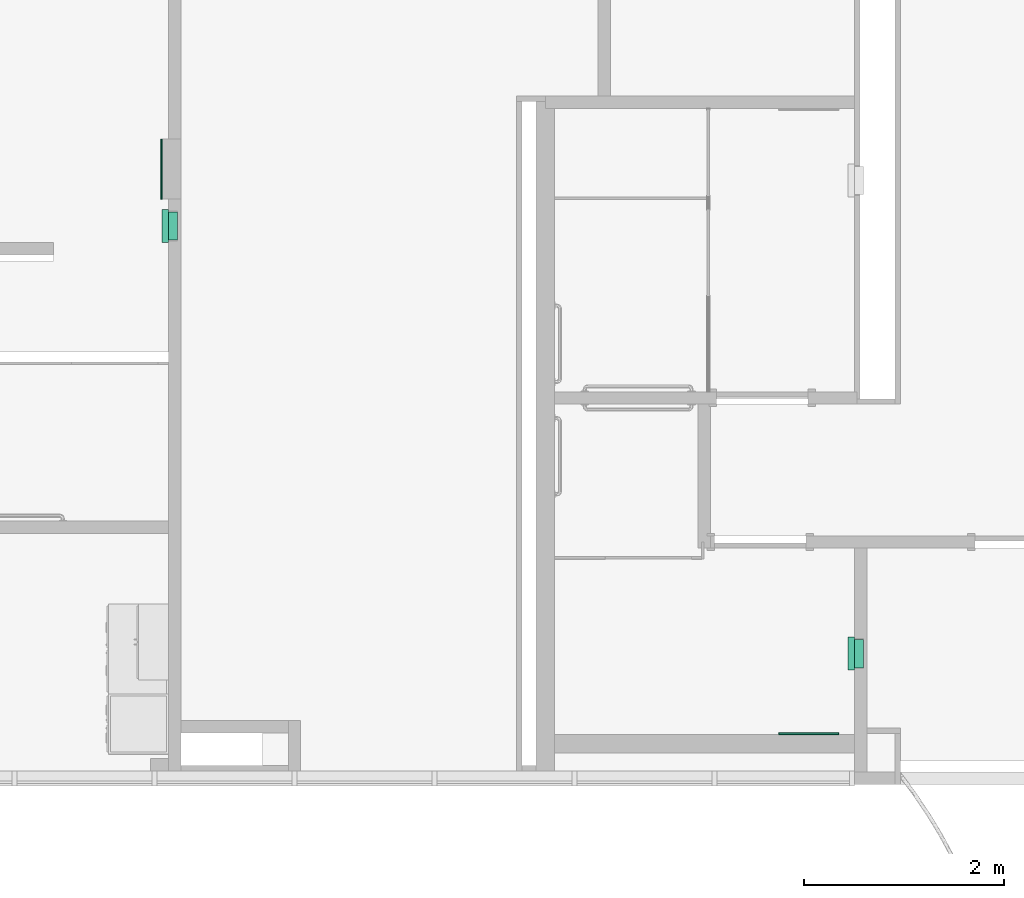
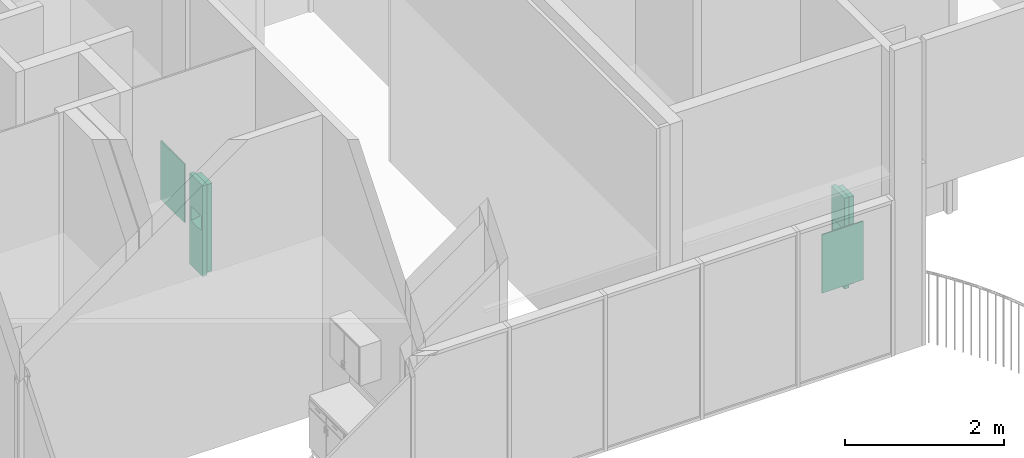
# One storey, part 34 of 47: 4 flow terminals.
"""IFC2X3 building model written with IfcOpenShell, lengths in metres."""

from ifc_helpers import new_model, entity, si_unit, converted_unit, frame, origin, origin_2d_with_axis, place, context, project, spatial, rectangle, extrude, face_set, surface_model, source, transform, mapped, type_object, type_shapes, element, save


model = new_model("IFC2X3")

# Units and contexts
model_context = context("Model", 3, precision=1e-09, world=origin())
plan_context = context("Plan", 3, precision=1e-09, world=origin())
ifc_project = project(units=[si_unit("LENGTHUNIT", "METRE"), si_unit("AREAUNIT", "SQUARE_METRE"), si_unit("VOLUMEUNIT", "CUBIC_METRE"), converted_unit("PLANEANGLEUNIT", "DEGREE", entity("IfcRatioMeasure", 0.01745329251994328), si_unit("PLANEANGLEUNIT", "RADIAN"), dimensions=[0, 0, 0, 0, 0, 0, 0]), si_unit("TIMEUNIT", "SECOND")], contexts=[model_context, plan_context])

# Site, building, storey, space
site_placement = place(None, origin())
site = spatial("IfcSite", under=ifc_project, at=site_placement, Name="Default", CompositionType="ELEMENT")
building_placement = place(site_placement, origin())
building = spatial("IfcBuilding", under=site, at=building_placement, CompositionType="ELEMENT")
storey_placement = place(building_placement, frame((0.0, 0.0, 4.570000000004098)))
storey = spatial("IfcBuildingStorey", under=building, at=storey_placement, Name="Second Floor", CompositionType="ELEMENT", Elevation=4.570000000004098)
space_1_placement = place(storey_placement, origin())
space_1 = spatial("IfcSpace", under=storey, at=space_1_placement, Name="2C23", CompositionType="ELEMENT", InteriorOrExteriorSpace="INTERNAL")

# Flow terminal
sanitary_terminal_type_1 = type_object("IfcSanitaryTerminalType", Name="Mirror 600mm x 900mm", PredefinedType="NOTDEFINED")
shared_shape_1 = source(origin(), model_context, "Body", "SweptSolid", [
    extrude(rectangle(XDim=0.01905, YDim=0.5999999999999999, at=origin_2d_with_axis()), frame((0.02447030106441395, 0.101525, 1.0), z_axis=(0.0, 0.0, 1.0), x_axis=(0.0, -1.0, 0.0)), (0.0, 0.0, 1.0), 0.8999999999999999),
])
type_shapes(sanitary_terminal_type_1, [shared_shape_1])
flow_terminal_1_placement = place(space_1_placement, frame((-20.77447030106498, 35.116999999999, -0.08499999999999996)))
element("IfcFlowTerminal", 1, at=flow_terminal_1_placement, inside=space_1, type_object=sanitary_terminal_type_1, Name="M_Mirror:Mirror 600mm x 900mm:Mirror 600mm x 900mm", ObjectType="Mirror 600mm x 900mm", context=model_context, shape_type="MappedRepresentation", body=[
    mapped(shared_shape_1, transform((0.0, 0.0, 0.0), scale=1.0)),
])

# Space
space_2_placement = place(storey_placement, origin())
space_2 = spatial("IfcSpace", under=storey, at=space_2_placement, Name="2C07", CompositionType="ELEMENT", InteriorOrExteriorSpace="INTERNAL")

# Flow terminals
flow_terminal_2_placement = place(space_2_placement, frame((-27.11800000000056, 40.83996840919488, -0.08499999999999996), z_axis=(0.0, 0.0, 1.0), x_axis=(0.0, 1.0, 0.0)))
element("IfcFlowTerminal", 2, at=flow_terminal_2_placement, inside=space_2, type_object=sanitary_terminal_type_1, Name="M_Mirror:Mirror 600mm x 900mm:Mirror 600mm x 900mm", ObjectType="Mirror 600mm x 900mm", context=model_context, shape_type="MappedRepresentation", body=[
    mapped(shared_shape_1, transform((0.0, 0.0, 0.0), scale=1.0)),
])
sanitary_terminal_type_2 = type_object("IfcSanitaryTerminalType", Name="Semi-Recessed", PredefinedType="NOTDEFINED")
shared_shape_2 = source(origin(), model_context, "Body", "SurfaceModel", [
    surface_model("IfcFaceBasedSurfaceModel", [(0.3047999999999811, 1.371600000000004, 0.006350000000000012), (0.02539999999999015, 1.371600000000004, 0.006350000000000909), (0.02539999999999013, 0.02540000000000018, 0.006350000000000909), (0.3047999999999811, 0.02540000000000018, 0.006350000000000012), (0.3047999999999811, 1.371600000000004, 0.0), (0.02539999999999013, 1.371600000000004, 0.0), (0.02539999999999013, 0.02540000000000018, 0.0), (0.3047999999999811, 0.02540000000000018, 0.0), (0.3047999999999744, 0.8683625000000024, 0.0314087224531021), (0.304799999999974, 0.8683625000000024, 0.0), (0.304799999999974, 1.371600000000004, 0.0), (0.3047999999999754, 1.371600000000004, 0.1396999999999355), (0.3047999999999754, 0.9274310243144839, 0.139699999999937), (0.3047999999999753, 0.9028355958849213, 0.1191121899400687), (0.304799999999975, 0.8840898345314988, 0.09308548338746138), (0.3047999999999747, 0.8723562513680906, 0.06323391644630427), (0.02539999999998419, 0.8683625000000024, 0.03140872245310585), (0.02539999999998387, 0.8683625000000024, 0.0), (0.02539999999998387, 1.371600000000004, 0.0), (0.02539999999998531, 1.371600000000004, 0.1396999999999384), (0.02539999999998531, 0.9274310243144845, 0.1396999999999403), (0.02539999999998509, 0.9028355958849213, 0.1191121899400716), (0.02539999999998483, 0.8840898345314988, 0.09308548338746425), (0.02539999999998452, 0.8723562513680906, 0.06323391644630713), (0.1650999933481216, 0.8971245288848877, 0.1125374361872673), (0.244423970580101, 0.8850007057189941, 0.0947267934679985), (0.3048000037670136, 0.8934627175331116, 0.1060988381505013), (0.225727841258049, 0.8897196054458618, 0.1024402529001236), (0.1240624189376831, 0.8936511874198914, 0.1080563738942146), (0.1443802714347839, 0.89626145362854, 0.1114614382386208), (0.02539999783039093, 0.8934627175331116, 0.1060988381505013), (0.2975995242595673, 0.8728225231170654, 0.06500939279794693), (0.2961554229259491, 0.8724397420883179, 0.06352298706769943), (0.08576729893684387, 0.8849983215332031, 0.09472260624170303), (0.05923719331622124, 0.8781034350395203, 0.0805450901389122), (0.06810294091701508, 0.8800443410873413, 0.08500713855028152), (0.02539999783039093, 0.8811564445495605, 0.08562259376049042), (0.03954862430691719, 0.8766331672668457, 0.07681932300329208), (0.04958875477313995, 0.8769928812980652, 0.07776296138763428), (0.02539999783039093, 0.8782230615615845, 0.07815969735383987), (0.03264534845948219, 0.875198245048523, 0.07281118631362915), (0.02539999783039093, 0.8767563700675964, 0.0744282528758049), (0.02539999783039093, 0.87602299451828, 0.07256253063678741), (0.2946777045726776, 0.8762261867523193, 0.07572414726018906), (0.3048000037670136, 0.8767563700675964, 0.0744282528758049), (0.3048000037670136, 0.8774896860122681, 0.07629397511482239), (0.2906513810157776, 0.8717893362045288, 0.0609215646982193), (0.3048000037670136, 0.871357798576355, 0.05527761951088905), (0.3048000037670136, 0.8718570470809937, 0.05925576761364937), (0.02539999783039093, 0.874556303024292, 0.06883108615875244), (0.03170676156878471, 0.8735430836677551, 0.0675705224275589), (0.03171554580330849, 0.8739543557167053, 0.06892137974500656), (0.104461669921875, 0.889717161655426, 0.1024366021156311), (0.02539999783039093, 0.8752896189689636, 0.07069680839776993), (0.03172433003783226, 0.8743656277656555, 0.07027223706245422), (0.03218483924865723, 0.8747819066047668, 0.07154171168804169), (0.185808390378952, 0.8962624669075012, 0.1114626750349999), (0.3048000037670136, 0.8703593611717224, 0.04732131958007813), (0.2280749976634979, 0.8709259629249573, 0.05697767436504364), (0.2061262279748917, 0.8936530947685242, 0.1080589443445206), (0.3048000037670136, 0.8752896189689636, 0.07069680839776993), (0.297547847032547, 0.8752022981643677, 0.07282306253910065), (0.2980738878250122, 0.8745774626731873, 0.0708826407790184), (0.2985999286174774, 0.8739525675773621, 0.06894221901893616), (0.3048000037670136, 0.874556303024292, 0.06883108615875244), (0.2709419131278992, 0.8781068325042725, 0.08055329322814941), (0.3048000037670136, 0.8811564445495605, 0.08562259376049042), (0.2620970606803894, 0.8800443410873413, 0.08500713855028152), (0.2805894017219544, 0.8769944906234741, 0.07776710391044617), (0.3048000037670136, 0.8782230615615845, 0.07815969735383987), (0.03435983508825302, 0.8722586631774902, 0.06284872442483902), (0.02539999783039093, 0.872106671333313, 0.06124484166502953), (0.0367727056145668, 0.8719081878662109, 0.06142202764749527), (0.2906513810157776, 0.8766331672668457, 0.07681932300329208), (0.02539999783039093, 0.8718570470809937, 0.05925576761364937), (0.3048000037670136, 0.8738229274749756, 0.06696536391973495), (0.2980997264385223, 0.8733875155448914, 0.06697580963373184), (0.3048000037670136, 0.872106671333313, 0.06124484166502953), (0.2947112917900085, 0.8720570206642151, 0.06203658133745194), (0.02539999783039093, 0.8738229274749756, 0.06696536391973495), (0.3048000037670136, 0.873089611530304, 0.06509964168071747), (0.02539999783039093, 0.8774896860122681, 0.07629397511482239), (0.03438528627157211, 0.8759323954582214, 0.07491400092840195), (0.03677724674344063, 0.8764464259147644, 0.07632055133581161), (0.03261014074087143, 0.8728178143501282, 0.0649920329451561), (0.02539999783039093, 0.8703593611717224, 0.04732131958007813), (0.1650999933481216, 0.8683624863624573, 0.03140872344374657), (0.03954862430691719, 0.8717893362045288, 0.0609215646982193), (0.1021250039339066, 0.8709259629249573, 0.05697767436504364), (0.02539999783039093, 0.871357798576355, 0.05527761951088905), (0.02539999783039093, 0.873089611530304, 0.06509964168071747), (0.2961127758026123, 0.8757142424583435, 0.07427360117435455), (0.3048000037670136, 0.87602299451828, 0.07256253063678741), (0.1650999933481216, 0.8701865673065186, 0.05300865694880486), (0.03954862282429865, 0.9617593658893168, 0.06092156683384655), (0.1650999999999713, 0.9617593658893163, 0.05300865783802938), (0.2906513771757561, 0.9617593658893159, 0.06092156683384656), (0.2927086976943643, 0.9617593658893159, 0.06119241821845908), (0.2946258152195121, 0.9617593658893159, 0.06198651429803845), (0.2962720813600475, 0.9617593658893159, 0.06324973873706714), (0.2975353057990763, 0.9617593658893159, 0.06489600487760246), (0.2983294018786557, 0.9617593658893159, 0.06681312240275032), (0.2986002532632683, 0.9617593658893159, 0.06887044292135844), (0.2983294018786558, 0.9617593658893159, 0.07092776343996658), (0.2975353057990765, 0.9617593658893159, 0.0728448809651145), (0.2962720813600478, 0.9617593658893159, 0.07449114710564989), (0.2946258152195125, 0.9617593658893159, 0.07575437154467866), (0.2927086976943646, 0.9617593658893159, 0.07654846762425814), (0.2906513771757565, 0.9617593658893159, 0.07681931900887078), (0.2806776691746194, 0.9617593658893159, 0.07775040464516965), (0.2710486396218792, 0.9617593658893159, 0.0805114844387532), (0.2620970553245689, 0.9617593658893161, 0.0850071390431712), (0.2316919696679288, 0.9617593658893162, 0.1002429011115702), (0.1989754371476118, 0.9617593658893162, 0.1095287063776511), (0.1651000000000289, 0.9617593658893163, 0.1125374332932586), (0.1312245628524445, 0.9617593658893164, 0.109528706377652), (0.09850803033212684, 0.9617593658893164, 0.1002429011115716), (0.06810294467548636, 0.9617593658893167, 0.08500713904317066), (0.05915136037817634, 0.9617593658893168, 0.08051148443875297), (0.04952233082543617, 0.9617593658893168, 0.07775040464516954), (0.03954862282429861, 0.9617593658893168, 0.07681931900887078), (0.03749130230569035, 0.9617593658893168, 0.0765484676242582), (0.03557418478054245, 0.9617593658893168, 0.07575437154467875), (0.03392791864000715, 0.9617593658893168, 0.07449114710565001), (0.03266469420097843, 0.9617593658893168, 0.07284488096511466), (0.03187059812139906, 0.9617593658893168, 0.07092776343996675), (0.03159974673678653, 0.9617593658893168, 0.06887044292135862), (0.03187059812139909, 0.9617593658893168, 0.06681312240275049), (0.03266469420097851, 0.9617593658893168, 0.0648960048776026), (0.03392791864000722, 0.9617593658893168, 0.06324973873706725), (0.03557418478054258, 0.9617593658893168, 0.06198651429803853), (0.03749130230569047, 0.9617593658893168, 0.06119241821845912), (0.3302000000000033, 1.397000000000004, 0.1523999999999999), (0.0, 1.397000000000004, 0.152400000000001), (0.0, 0.0, 0.152400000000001), (0.3302000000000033, 0.0, 0.1523999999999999), (0.03175000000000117, 0.7016793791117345, 0.1524000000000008), (0.03175000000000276, 0.8960819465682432, 0.1524000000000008), (0.03192255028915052, 0.8975521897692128, 0.1524000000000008), (0.03243082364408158, 0.8989425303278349, 0.1524000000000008), (0.03324719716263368, 0.9001774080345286, 0.1524000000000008), (0.03432730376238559, 0.9011897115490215, 0.1524000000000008), (0.03561244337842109, 0.9019244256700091, 0.1524000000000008), (0.03703277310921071, 0.9023416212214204, 0.1524000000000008), (0.1222300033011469, 0.9119737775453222, 0.1524000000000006), (0.2079699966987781, 0.911973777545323, 0.1524000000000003), (0.2931672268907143, 0.902341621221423, 0.1524), (0.2945875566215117, 0.9019244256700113, 0.1524), (0.2958726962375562, 0.9011897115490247, 0.1524), (0.2969528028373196, 0.9001774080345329, 0.1524), (0.297769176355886, 0.8989425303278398, 0.1524), (0.2982774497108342, 0.8975521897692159, 0.1524), (0.2984500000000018, 0.8960819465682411, 0.1524), (0.2984500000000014, 0.7016793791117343, 0.1524), (0.2982774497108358, 0.7002091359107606, 0.1524), (0.2977691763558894, 0.6988187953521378, 0.1524), (0.2969528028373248, 0.697583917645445, 0.1524), (0.2958726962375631, 0.6965716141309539, 0.1524), (0.29458755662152, 0.6958369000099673, 0.1524), (0.2931672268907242, 0.6954197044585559, 0.1524), (0.2079699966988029, 0.6857875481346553, 0.1524000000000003), (0.1222300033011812, 0.6857875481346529, 0.1524000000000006), (0.03703277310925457, 0.6954197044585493, 0.1524000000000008), (0.03561244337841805, 0.6958369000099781, 0.1524000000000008), (0.0343273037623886, 0.6965716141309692, 0.1524000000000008), (0.03324719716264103, 0.6975839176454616, 0.1524000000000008), (0.03243082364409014, 0.698818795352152, 0.1524000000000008), (0.03192255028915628, 0.7002091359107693, 0.1524000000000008), (0.3063874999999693, 1.373187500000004, 0.0), (0.02381249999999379, 1.373187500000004, 0.0), (0.02381249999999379, 0.02381250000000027, 0.0), (0.3063874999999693, 0.02381250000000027, 0.0), (0.3047999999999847, 1.371600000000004, 0.0), (0.3047999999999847, 0.02540000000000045, 0.0), (0.02539999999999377, 0.02540000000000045, 0.0), (0.02539999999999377, 1.371600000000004, 0.0), (0.304799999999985, 1.371600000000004, 0.08889999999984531), (0.3047999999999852, 1.371600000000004, 0.1396999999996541), (0.3047999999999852, 0.02540000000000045, 0.1396999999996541), (0.304799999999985, 0.02540000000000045, 0.08889999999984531), (0.02539999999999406, 0.02540000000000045, 0.08889999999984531), (0.02539999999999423, 0.02540000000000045, 0.139699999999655), (0.02539999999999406, 1.371600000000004, 0.08889999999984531), (0.02539999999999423, 1.371600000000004, 0.139699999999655), (0.02381249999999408, 1.373187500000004, 0.08889999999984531), (0.3063874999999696, 1.373187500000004, 0.08889999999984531), (0.02381249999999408, 0.02381250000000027, 0.08889999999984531), (0.3063874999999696, 0.02381250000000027, 0.08889999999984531), (0.3302000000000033, 1.397000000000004, 0.08889999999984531), (0.0, 1.397000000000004, 0.08889999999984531), (0.0, 0.0, 0.08889999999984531), (0.3302000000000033, 0.0, 0.08889999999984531), (0.3302000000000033, 1.397000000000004, 0.1396999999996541), (0.0, 1.397000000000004, 0.1396999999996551), (0.0, 0.0, 0.1396999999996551), (0.3302000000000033, 0.0, 0.1396999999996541), (0.0317500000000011, 0.7016793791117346, 0.139699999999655), (0.03175000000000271, 0.8960819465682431, 0.139699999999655), (0.03192255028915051, 0.8975521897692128, 0.139699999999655), (0.03243082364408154, 0.8989425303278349, 0.139699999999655), (0.03324719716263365, 0.9001774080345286, 0.139699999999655), (0.03432730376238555, 0.9011897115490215, 0.139699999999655), (0.03561244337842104, 0.9019244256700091, 0.139699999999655), (0.03703277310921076, 0.9023416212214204, 0.139699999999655), (0.1222300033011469, 0.9119737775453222, 0.1396999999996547), (0.207969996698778, 0.911973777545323, 0.1396999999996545), (0.2931672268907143, 0.902341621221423, 0.1396999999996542), (0.2945875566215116, 0.9019244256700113, 0.1396999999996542), (0.2958726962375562, 0.9011897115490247, 0.1396999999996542), (0.2969528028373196, 0.9001774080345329, 0.1396999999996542), (0.2977691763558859, 0.8989425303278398, 0.1396999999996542), (0.2982774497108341, 0.8975521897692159, 0.1396999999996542), (0.2984500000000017, 0.8960819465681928, 0.1396999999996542), (0.2984500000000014, 0.7016793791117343, 0.1396999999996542), (0.2982774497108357, 0.7002091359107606, 0.1396999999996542), (0.2977691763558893, 0.6988187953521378, 0.1396999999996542), (0.2969528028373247, 0.697583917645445, 0.1396999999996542), (0.295872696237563, 0.6965716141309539, 0.1396999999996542), (0.29458755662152, 0.6958369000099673, 0.1396999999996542), (0.2931672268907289, 0.6954197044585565, 0.1396999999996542), (0.2079699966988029, 0.6857875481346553, 0.1396999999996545), (0.1222300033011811, 0.6857875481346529, 0.1396999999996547), (0.0370327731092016, 0.6954197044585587, 0.139699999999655), (0.03561244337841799, 0.6958369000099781, 0.139699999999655), (0.03432730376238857, 0.6965716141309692, 0.139699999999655), (0.03324719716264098, 0.6975839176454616, 0.139699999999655), (0.03243082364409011, 0.698818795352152, 0.139699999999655), (0.03192255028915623, 0.7002091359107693, 0.139699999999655), (0.02698749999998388, 0.6774923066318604, 0.1206361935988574), (0.02698749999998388, 0.6858000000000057, 0.1206361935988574), (0.02698749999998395, 0.6858000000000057, 0.1397000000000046), (0.02698749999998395, 0.0253999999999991, 0.1397000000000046), (0.02698749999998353, 0.0253999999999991, 0.007937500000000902), (0.02698749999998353, 0.7076898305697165, 0.007937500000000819), (0.3032124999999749, 0.6774923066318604, 0.1206361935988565), (0.3032124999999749, 0.6858000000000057, 0.1206361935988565), (0.3032124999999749, 0.6858000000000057, 0.1397000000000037), (0.3032124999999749, 0.0253999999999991, 0.1397000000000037), (0.3032124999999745, 0.0253999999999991, 0.007937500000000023), (0.3032124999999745, 0.7076898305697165, 0.007937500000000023)], [face_set([[[0, 1, 2, 3]], [[4, 5, 6, 7]], [[1, 0, 4, 5]], [[2, 6, 5, 1]], [[3, 7, 6, 2]], [[0, 3, 7, 4]]]), face_set([[[8, 9, 10, 11, 12, 13, 14, 15]], [[16, 17, 18, 19, 20, 21, 22, 23]], [[9, 8, 16, 17]], [[10, 18, 17, 9]], [[11, 19, 18, 10]], [[12, 11, 19, 20]], [[24, 20, 21]], [[25, 26, 27]], [[28, 29, 21]], [[28, 21, 30]], [[15, 31, 32]], [[22, 33, 30]], [[24, 21, 29]], [[34, 35, 36]], [[37, 38, 39]], [[40, 41, 42]], [[39, 38, 34]], [[22, 35, 33]], [[39, 34, 36]], [[43, 44, 45]], [[46, 47, 48]], [[49, 50, 51]], [[33, 52, 30]], [[53, 54, 55]], [[24, 56, 13]], [[57, 47, 58]], [[24, 13, 12]], [[13, 56, 59]], [[59, 27, 26]], [[60, 61, 62]], [[62, 63, 64]], [[24, 12, 20]], [[55, 42, 53]], [[65, 66, 67]], [[25, 67, 14]], [[25, 14, 26]], [[65, 68, 69]], [[66, 65, 69]], [[70, 71, 72]], [[69, 68, 73]], [[72, 71, 74]], [[26, 13, 59]], [[54, 53, 49]], [[64, 60, 62]], [[75, 63, 76]], [[46, 77, 78]], [[79, 50, 49]], [[80, 76, 31]], [[39, 81, 37]], [[41, 82, 81]], [[49, 51, 54]], [[81, 82, 83]], [[40, 82, 41]], [[70, 84, 23]], [[84, 50, 79]], [[85, 16, 86]], [[28, 30, 52]], [[70, 23, 71]], [[87, 72, 74]], [[85, 88, 89]], [[87, 89, 88]], [[74, 89, 87]], [[84, 90, 23]], [[58, 47, 46]], [[35, 22, 36]], [[63, 75, 64]], [[91, 61, 92]], [[45, 73, 43]], [[80, 75, 76]], [[61, 60, 92]], [[15, 32, 78]], [[45, 69, 73]], [[92, 44, 91]], [[66, 14, 67]], [[84, 79, 90]], [[85, 93, 88]], [[86, 57, 93]], [[31, 15, 80]], [[77, 15, 78]], [[42, 55, 40]], [[58, 93, 57]], [[77, 46, 48]], [[8, 57, 86]], [[37, 81, 83]], [[44, 43, 91]], [[85, 86, 93]], [[94, 95, 96, 97, 98, 99, 100, 101, 102, 103, 104, 105, 106, 107, 108, 109, 110, 111, 112, 113, 114, 115, 116, 117, 118, 119, 120, 121, 122, 123, 124, 125, 126, 127, 128, 129, 130, 131]], [[95, 94, 87, 88, 93]], [[96, 95, 93, 58, 46]], [[46, 96, 97]], [[78, 98, 99]], [[97, 98, 78]], [[99, 100, 31]], [[46, 97, 78]], [[63, 31, 101]], [[31, 78, 99]], [[63, 101, 102]], [[101, 31, 100]], [[61, 104, 105]], [[43, 106, 107]], [[105, 106, 43]], [[73, 107, 108]], [[63, 103, 61]], [[103, 63, 102]], [[61, 103, 104]], [[61, 105, 43]], [[107, 73, 43]], [[108, 68, 73]], [[68, 108, 109]], [[109, 65, 68]], [[110, 67, 65]], [[67, 110, 111]], [[109, 110, 65]], [[111, 112, 25]], [[25, 67, 111]], [[27, 25, 112]], [[112, 59, 27]], [[113, 114, 56]], [[56, 59, 113]], [[24, 56, 114]], [[113, 59, 112]], [[114, 115, 29]], [[29, 24, 114]], [[28, 29, 115]], [[115, 116, 28]], [[116, 117, 33]], [[33, 52, 116]], [[35, 33, 117]], [[116, 52, 28]], [[118, 34, 35]], [[35, 117, 118]], [[118, 119, 34]], [[120, 37, 38]], [[38, 119, 120]], [[34, 119, 38]], [[37, 120, 121]], [[82, 122, 123]], [[121, 122, 83]], [[123, 124, 40]], [[37, 121, 83]], [[83, 122, 82]], [[40, 125, 54]], [[40, 82, 123]], [[54, 125, 126]], [[40, 124, 125]], [[84, 127, 128]], [[129, 84, 128]], [[72, 130, 131]], [[129, 130, 70]], [[87, 131, 94]], [[127, 50, 126]], [[127, 84, 50]], [[126, 50, 54]], [[70, 84, 129]], [[130, 72, 70]], [[131, 87, 72]]]), face_set([[[132, 133, 134, 135], [136, 137, 138, 139, 140, 141, 142, 143, 144, 145, 146, 147, 148, 149, 150, 151, 152, 153, 154, 155, 156, 157, 158, 159, 160, 161, 162, 163, 164, 165, 166, 167]], [[168, 169, 170, 171], [172, 173, 174, 175]], [[172, 176, 177, 178, 179, 173]], [[173, 174, 180, 181, 178, 179]], [[174, 175, 182, 183, 181, 180]], [[175, 182, 183, 177, 176, 172]], [[168, 169, 184, 185]], [[169, 184, 186, 170]], [[170, 186, 187, 171]], [[171, 168, 185, 187]], [[188, 189, 190, 191], [185, 187, 186, 184]], [[133, 132, 192, 188, 189, 193]], [[134, 133, 193, 189, 190, 194]], [[135, 134, 194, 190, 191, 195]], [[132, 135, 195, 191, 188, 192]], [[177, 183, 181, 178], [196, 197, 198, 199, 200, 201, 202, 203, 204, 205, 206, 207, 208, 209, 210, 211, 212, 213, 214, 215, 216, 217, 218, 219, 220, 221, 222, 223, 224, 225, 226, 227]], [[137, 136, 196, 197]], [[198, 197, 137, 138]], [[199, 198, 138, 139]], [[139, 140, 200, 199]], [[202, 201, 141, 142]], [[203, 202, 142, 143]], [[140, 141, 201, 200]], [[203, 143, 144, 204]], [[145, 205, 204, 144]], [[205, 145, 146, 206]], [[207, 206, 146, 147]], [[208, 207, 147, 148]], [[148, 149, 209, 208]], [[212, 211, 151, 152]], [[211, 210, 150, 151]], [[149, 150, 210, 209]], [[153, 213, 212, 152]], [[214, 213, 153, 154]], [[215, 214, 154, 155]], [[155, 156, 216, 215]], [[218, 217, 157, 158]], [[219, 218, 158, 159]], [[156, 157, 217, 216]], [[219, 159, 160, 220]], [[161, 221, 220, 160]], [[221, 161, 162, 222]], [[223, 222, 162, 163]], [[224, 223, 163, 164]], [[164, 165, 225, 224]], [[227, 226, 166, 167]], [[196, 227, 167, 136]], [[165, 166, 226, 225]]]), face_set([[[228, 229, 230, 231, 232, 233]], [[234, 235, 236, 237, 238, 239]], [[233, 228, 234, 239]], [[232, 238, 239, 233]], [[231, 237, 238, 232]], [[230, 231, 237, 236]], [[229, 230, 236, 235]], [[228, 234, 235, 229]]])]),
])
type_shapes(sanitary_terminal_type_2, [shared_shape_2])
flow_terminal_3_placement = place(space_2_placement, frame((-27.06110000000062, 40.46174685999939, 0.3428999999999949), z_axis=(-1.0, 0.0, 0.0), x_axis=(0.0, -1.0, 0.0)))
element("IfcFlowTerminal", 3, at=flow_terminal_3_placement, inside=space_2, type_object=sanitary_terminal_type_2, Name="M_Towel Dispensers - receptical:Semi-Recessed:Semi-Recessed", ObjectType="Semi-Recessed", context=model_context, shape_type="MappedRepresentation", body=[
    mapped(shared_shape_2, transform((0.0, 0.0, 0.0), scale=1.0)),
])
flow_terminal_4_placement = place(space_1_placement, frame((-20.20110000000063, 36.18463871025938, 0.3428999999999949), z_axis=(-1.0, 0.0, 0.0), x_axis=(0.0, -1.0, 0.0)))
element("IfcFlowTerminal", 4, at=flow_terminal_4_placement, inside=space_1, type_object=sanitary_terminal_type_2, Name="M_Towel Dispensers - receptical:Semi-Recessed:Semi-Recessed", ObjectType="Semi-Recessed", context=model_context, shape_type="MappedRepresentation", body=[
    mapped(shared_shape_2, transform((0.0, 0.0, 0.0), scale=1.0)),
])

save(model, "model.ifc")
